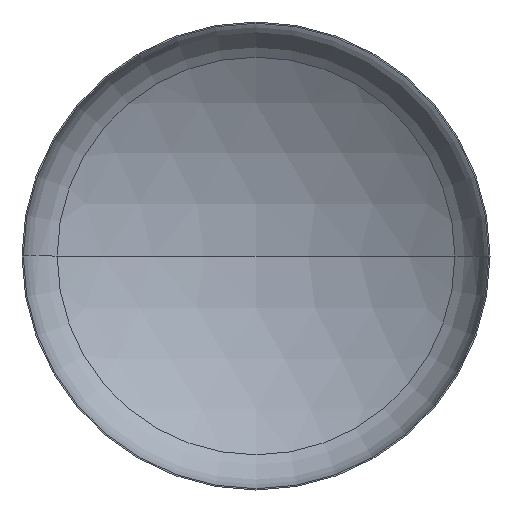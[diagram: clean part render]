
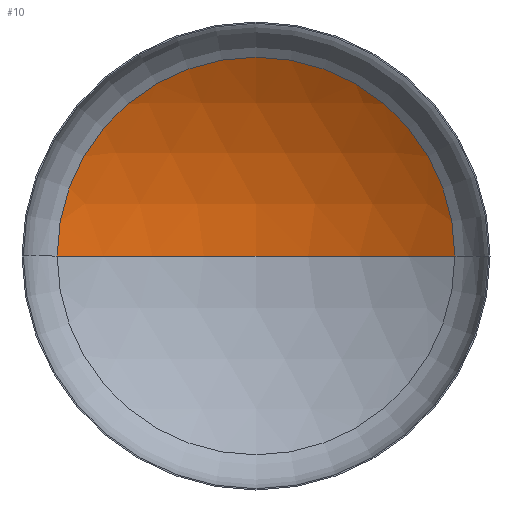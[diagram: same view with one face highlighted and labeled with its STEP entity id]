
A CAD part, front view. The second image highlights one B-rep face of the part: STEP entity #10.
In plain terms, the highlighted spherical face has radius 3600 mm.
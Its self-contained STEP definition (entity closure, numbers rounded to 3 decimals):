
#9 = EDGE_LOOP ( 'NONE', ( #120, #25, #383 ) ) ;
#10 = ADVANCED_FACE ( 'NONE', ( #373 ), #266, .F. ) ;
#20 = AXIS2_PLACEMENT_3D ( 'NONE', #79, #55, #82 ) ;
#25 = ORIENTED_EDGE ( 'NONE', *, *, #249, .T. ) ;
#26 = CARTESIAN_POINT ( 'NONE',  ( 0., -2421.336, 0. ) ) ;
#39 = DIRECTION ( 'NONE',  ( -1., 0., 0. ) ) ;
#40 = DIRECTION ( 'NONE',  ( 0., 0., -1. ) ) ;
#55 = DIRECTION ( 'NONE',  ( 0., 0., 1. ) ) ;
#76 = AXIS2_PLACEMENT_3D ( 'NONE', #26, #40, #39 ) ;
#79 = CARTESIAN_POINT ( 'NONE',  ( 0., -2421.336, 0. ) ) ;
#82 = DIRECTION ( 'NONE',  ( 1., 0., 0. ) ) ;
#89 = AXIS2_PLACEMENT_3D ( 'NONE', #129, #128, #127 ) ;
#100 = VERTEX_POINT ( 'NONE', #232 ) ;
#106 = CIRCLE ( 'NONE', #89, 1912.151 ) ;
#120 = ORIENTED_EDGE ( 'NONE', *, *, #372, .F. ) ;
#127 = DIRECTION ( 'NONE',  ( 1., 0., 0. ) ) ;
#128 = DIRECTION ( 'NONE',  ( 0., -1., 0. ) ) ;
#129 = CARTESIAN_POINT ( 'NONE',  ( 0., 628.857, 0. ) ) ;
#166 = AXIS2_PLACEMENT_3D ( 'NONE', #282, #377, #253 ) ;
#210 = CARTESIAN_POINT ( 'NONE',  ( 1912.151, 628.857, 0. ) ) ;
#213 = VERTEX_POINT ( 'NONE', #216 ) ;
#216 = CARTESIAN_POINT ( 'NONE',  ( -1912.151, 628.857, 0. ) ) ;
#222 = VERTEX_POINT ( 'NONE', #210 ) ;
#232 = CARTESIAN_POINT ( 'NONE',  ( 0., 1178.664, 0. ) ) ;
#234 = EDGE_CURVE ( 'NONE', #222, #213, #106, .T. ) ;
#249 = EDGE_CURVE ( 'NONE', #100, #222, #339, .T. ) ;
#253 = DIRECTION ( 'NONE',  ( -1., 0., 0. ) ) ;
#266 = SPHERICAL_SURFACE ( 'NONE', #166, 3600. ) ;
#282 = CARTESIAN_POINT ( 'NONE',  ( 0., -2421.336, 0. ) ) ;
#339 = CIRCLE ( 'NONE', #76, 3600. ) ;
#372 = EDGE_CURVE ( 'NONE', #100, #213, #378, .T. ) ;
#373 = FACE_OUTER_BOUND ( 'NONE', #9, .T. ) ;
#377 = DIRECTION ( 'NONE',  ( 0., 0., -1. ) ) ;
#378 = CIRCLE ( 'NONE', #20, 3600. ) ;
#383 = ORIENTED_EDGE ( 'NONE', *, *, #234, .T. ) ;
